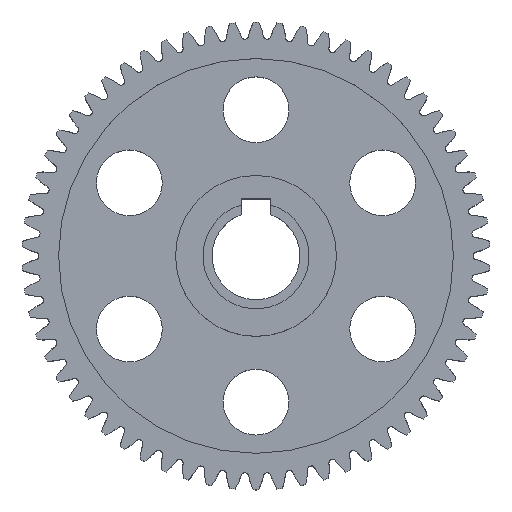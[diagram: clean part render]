
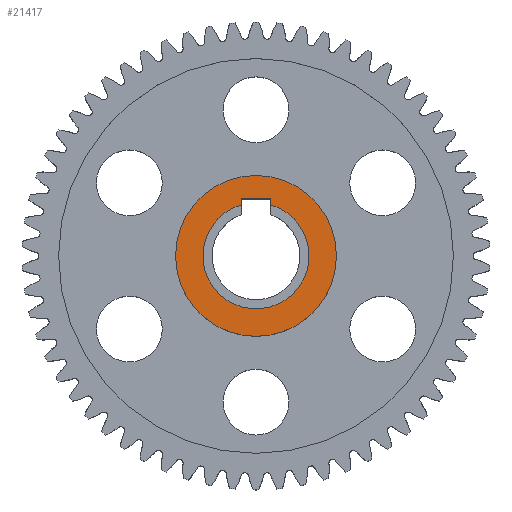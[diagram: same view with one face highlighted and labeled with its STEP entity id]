
A CAD part, top view. The second image highlights one B-rep face of the part: STEP entity #21417.
In plain terms, the highlighted planar face has unit normal (0, 0, 1).
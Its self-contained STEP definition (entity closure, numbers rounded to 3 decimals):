
#21254 = PLANE('',#21255);
#21255 = AXIS2_PLACEMENT_3D('',#21256,#21257,#21258);
#21256 = CARTESIAN_POINT('',(2.,0.,-1.));
#21257 = DIRECTION('',(1.,0.,-0.));
#21258 = DIRECTION('',(0.,0.,1.));
#21309 = PLANE('',#21310);
#21310 = AXIS2_PLACEMENT_3D('',#21311,#21312,#21313);
#21311 = CARTESIAN_POINT('',(-2.,0.,-1.));
#21312 = DIRECTION('',(1.,0.,-0.));
#21313 = DIRECTION('',(0.,0.,1.));
#21333 = PLANE('',#21334);
#21334 = AXIS2_PLACEMENT_3D('',#21335,#21336,#21337);
#21335 = CARTESIAN_POINT('',(-2.,7.8,-1.));
#21336 = DIRECTION('',(-0.,1.,0.));
#21337 = DIRECTION('',(0.,0.,1.));
#21348 = VERTEX_POINT('',#21349);
#21349 = CARTESIAN_POINT('',(2.,7.8,12.));
#21372 = VERTEX_POINT('',#21373);
#21373 = CARTESIAN_POINT('',(-2.,7.8,12.));
#21394 = EDGE_CURVE('',#21348,#21372,#21395,.T.);
#21395 = SURFACE_CURVE('',#21396,(#21400,#21406),.PCURVE_S1.);
#21396 = LINE('',#21397,#21398);
#21397 = CARTESIAN_POINT('',(-1.,7.8,12.));
#21398 = VECTOR('',#21399,1.);
#21399 = DIRECTION('',(-1.,-0.,0.));
#21400 = PCURVE('',#21333,#21401);
#21401 = DEFINITIONAL_REPRESENTATION('',(#21402),#21405);
#21402 = B_SPLINE_CURVE_WITH_KNOTS('',1,(#21403,#21404),.UNSPECIFIED.,
  .F.,.F.,(2,2),(-3.,1.),.PIECEWISE_BEZIER_KNOTS.);
#21403 = CARTESIAN_POINT('',(13.,4.));
#21404 = CARTESIAN_POINT('',(13.,0.));
#21405 = ( GEOMETRIC_REPRESENTATION_CONTEXT(2) 
PARAMETRIC_REPRESENTATION_CONTEXT() REPRESENTATION_CONTEXT('2D SPACE',''
  ) );
#21406 = PCURVE('',#21407,#21412);
#21407 = PLANE('',#21408);
#21408 = AXIS2_PLACEMENT_3D('',#21409,#21410,#21411);
#21409 = CARTESIAN_POINT('',(0.,0.,12.));
#21410 = DIRECTION('',(0.,0.,1.));
#21411 = DIRECTION('',(1.,0.,-0.));
#21412 = DEFINITIONAL_REPRESENTATION('',(#21413),#21416);
#21413 = B_SPLINE_CURVE_WITH_KNOTS('',1,(#21414,#21415),.UNSPECIFIED.,
  .F.,.F.,(2,2),(-3.,1.),.PIECEWISE_BEZIER_KNOTS.);
#21414 = CARTESIAN_POINT('',(2.,7.8));
#21415 = CARTESIAN_POINT('',(-2.,7.8));
#21416 = ( GEOMETRIC_REPRESENTATION_CONTEXT(2) 
PARAMETRIC_REPRESENTATION_CONTEXT() REPRESENTATION_CONTEXT('2D SPACE',''
  ) );
#21417 = ADVANCED_FACE('',(#21418,#21449),#21407,.T.);
#21418 = FACE_BOUND('',#21419,.T.);
#21419 = EDGE_LOOP('',(#21420));
#21420 = ORIENTED_EDGE('',*,*,#21421,.T.);
#21421 = EDGE_CURVE('',#21422,#21422,#21424,.T.);
#21422 = VERTEX_POINT('',#21423);
#21423 = CARTESIAN_POINT('',(11.,0.,12.));
#21424 = SURFACE_CURVE('',#21425,(#21430,#21437),.PCURVE_S1.);
#21425 = CIRCLE('',#21426,11.);
#21426 = AXIS2_PLACEMENT_3D('',#21427,#21428,#21429);
#21427 = CARTESIAN_POINT('',(0.,0.,12.));
#21428 = DIRECTION('',(0.,0.,1.));
#21429 = DIRECTION('',(1.,0.,-0.));
#21430 = PCURVE('',#21407,#21431);
#21431 = DEFINITIONAL_REPRESENTATION('',(#21432),#21436);
#21432 = CIRCLE('',#21433,11.);
#21433 = AXIS2_PLACEMENT_2D('',#21434,#21435);
#21434 = CARTESIAN_POINT('',(0.,0.));
#21435 = DIRECTION('',(1.,0.));
#21436 = ( GEOMETRIC_REPRESENTATION_CONTEXT(2) 
PARAMETRIC_REPRESENTATION_CONTEXT() REPRESENTATION_CONTEXT('2D SPACE',''
  ) );
#21437 = PCURVE('',#21438,#21443);
#21438 = CYLINDRICAL_SURFACE('',#21439,11.);
#21439 = AXIS2_PLACEMENT_3D('',#21440,#21441,#21442);
#21440 = CARTESIAN_POINT('',(0.,0.,7.99));
#21441 = DIRECTION('',(0.,0.,1.));
#21442 = DIRECTION('',(1.,0.,-0.));
#21443 = DEFINITIONAL_REPRESENTATION('',(#21444),#21448);
#21444 = LINE('',#21445,#21446);
#21445 = CARTESIAN_POINT('',(0.,4.01));
#21446 = VECTOR('',#21447,1.);
#21447 = DIRECTION('',(1.,0.));
#21448 = ( GEOMETRIC_REPRESENTATION_CONTEXT(2) 
PARAMETRIC_REPRESENTATION_CONTEXT() REPRESENTATION_CONTEXT('2D SPACE',''
  ) );
#21449 = FACE_BOUND('',#21450,.T.);
#21450 = EDGE_LOOP('',(#21451,#21486,#21505,#21506));
#21451 = ORIENTED_EDGE('',*,*,#21452,.T.);
#21452 = EDGE_CURVE('',#21453,#21455,#21457,.T.);
#21453 = VERTEX_POINT('',#21454);
#21454 = CARTESIAN_POINT('',(2.,6.969,12.));
#21455 = VERTEX_POINT('',#21456);
#21456 = CARTESIAN_POINT('',(-2.,6.969,12.));
#21457 = SURFACE_CURVE('',#21458,(#21463,#21474),.PCURVE_S1.);
#21458 = CIRCLE('',#21459,7.25);
#21459 = AXIS2_PLACEMENT_3D('',#21460,#21461,#21462);
#21460 = CARTESIAN_POINT('',(0.,0.,12.));
#21461 = DIRECTION('',(0.,0.,-1.));
#21462 = DIRECTION('',(0.276,0.961,0.));
#21463 = PCURVE('',#21407,#21464);
#21464 = DEFINITIONAL_REPRESENTATION('',(#21465),#21473);
#21465 = ( BOUNDED_CURVE() B_SPLINE_CURVE(2,(#21466,#21467,#21468,#21469
    ,#21470,#21471,#21472),.UNSPECIFIED.,.T.,.F.) 
B_SPLINE_CURVE_WITH_KNOTS((1,2,2,2,2,1),(-2.094,0.,
    2.094,4.189,6.283,8.378),
.UNSPECIFIED.) CURVE() GEOMETRIC_REPRESENTATION_ITEM() 
RATIONAL_B_SPLINE_CURVE((1.,0.5,1.,0.5,1.,0.5,1.)) REPRESENTATION_ITEM(
  '') );
#21466 = CARTESIAN_POINT('',(2.,6.969));
#21467 = CARTESIAN_POINT('',(14.07,3.505));
#21468 = CARTESIAN_POINT('',(5.035,-5.216));
#21469 = CARTESIAN_POINT('',(-4.,-13.937));
#21470 = CARTESIAN_POINT('',(-7.035,-1.752));
#21471 = CARTESIAN_POINT('',(-10.07,10.433));
#21472 = CARTESIAN_POINT('',(2.,6.969));
#21473 = ( GEOMETRIC_REPRESENTATION_CONTEXT(2) 
PARAMETRIC_REPRESENTATION_CONTEXT() REPRESENTATION_CONTEXT('2D SPACE',''
  ) );
#21474 = PCURVE('',#21475,#21480);
#21475 = CYLINDRICAL_SURFACE('',#21476,7.25);
#21476 = AXIS2_PLACEMENT_3D('',#21477,#21478,#21479);
#21477 = CARTESIAN_POINT('',(0.,0.,11.99));
#21478 = DIRECTION('',(0.,0.,1.));
#21479 = DIRECTION('',(1.,0.,-0.));
#21480 = DEFINITIONAL_REPRESENTATION('',(#21481),#21485);
#21481 = LINE('',#21482,#21483);
#21482 = CARTESIAN_POINT('',(7.574,0.01));
#21483 = VECTOR('',#21484,1.);
#21484 = DIRECTION('',(-1.,-0.));
#21485 = ( GEOMETRIC_REPRESENTATION_CONTEXT(2) 
PARAMETRIC_REPRESENTATION_CONTEXT() REPRESENTATION_CONTEXT('2D SPACE',''
  ) );
#21486 = ORIENTED_EDGE('',*,*,#21487,.T.);
#21487 = EDGE_CURVE('',#21455,#21372,#21488,.T.);
#21488 = SURFACE_CURVE('',#21489,(#21493,#21499),.PCURVE_S1.);
#21489 = LINE('',#21490,#21491);
#21490 = CARTESIAN_POINT('',(-2.,0.,12.));
#21491 = VECTOR('',#21492,1.);
#21492 = DIRECTION('',(-0.,1.,0.));
#21493 = PCURVE('',#21407,#21494);
#21494 = DEFINITIONAL_REPRESENTATION('',(#21495),#21498);
#21495 = B_SPLINE_CURVE_WITH_KNOTS('',1,(#21496,#21497),.UNSPECIFIED.,
  .F.,.F.,(2,2),(0.,7.8),.PIECEWISE_BEZIER_KNOTS.);
#21496 = CARTESIAN_POINT('',(-2.,0.));
#21497 = CARTESIAN_POINT('',(-2.,7.8));
#21498 = ( GEOMETRIC_REPRESENTATION_CONTEXT(2) 
PARAMETRIC_REPRESENTATION_CONTEXT() REPRESENTATION_CONTEXT('2D SPACE',''
  ) );
#21499 = PCURVE('',#21309,#21500);
#21500 = DEFINITIONAL_REPRESENTATION('',(#21501),#21504);
#21501 = B_SPLINE_CURVE_WITH_KNOTS('',1,(#21502,#21503),.UNSPECIFIED.,
  .F.,.F.,(2,2),(0.,7.8),.PIECEWISE_BEZIER_KNOTS.);
#21502 = CARTESIAN_POINT('',(13.,0.));
#21503 = CARTESIAN_POINT('',(13.,-7.8));
#21504 = ( GEOMETRIC_REPRESENTATION_CONTEXT(2) 
PARAMETRIC_REPRESENTATION_CONTEXT() REPRESENTATION_CONTEXT('2D SPACE',''
  ) );
#21505 = ORIENTED_EDGE('',*,*,#21394,.F.);
#21506 = ORIENTED_EDGE('',*,*,#21507,.F.);
#21507 = EDGE_CURVE('',#21453,#21348,#21508,.T.);
#21508 = SURFACE_CURVE('',#21509,(#21513,#21519),.PCURVE_S1.);
#21509 = LINE('',#21510,#21511);
#21510 = CARTESIAN_POINT('',(2.,0.,12.));
#21511 = VECTOR('',#21512,1.);
#21512 = DIRECTION('',(-0.,1.,0.));
#21513 = PCURVE('',#21407,#21514);
#21514 = DEFINITIONAL_REPRESENTATION('',(#21515),#21518);
#21515 = B_SPLINE_CURVE_WITH_KNOTS('',1,(#21516,#21517),.UNSPECIFIED.,
  .F.,.F.,(2,2),(0.,7.8),.PIECEWISE_BEZIER_KNOTS.);
#21516 = CARTESIAN_POINT('',(2.,0.));
#21517 = CARTESIAN_POINT('',(2.,7.8));
#21518 = ( GEOMETRIC_REPRESENTATION_CONTEXT(2) 
PARAMETRIC_REPRESENTATION_CONTEXT() REPRESENTATION_CONTEXT('2D SPACE',''
  ) );
#21519 = PCURVE('',#21254,#21520);
#21520 = DEFINITIONAL_REPRESENTATION('',(#21521),#21524);
#21521 = B_SPLINE_CURVE_WITH_KNOTS('',1,(#21522,#21523),.UNSPECIFIED.,
  .F.,.F.,(2,2),(0.,7.8),.PIECEWISE_BEZIER_KNOTS.);
#21522 = CARTESIAN_POINT('',(13.,0.));
#21523 = CARTESIAN_POINT('',(13.,-7.8));
#21524 = ( GEOMETRIC_REPRESENTATION_CONTEXT(2) 
PARAMETRIC_REPRESENTATION_CONTEXT() REPRESENTATION_CONTEXT('2D SPACE',''
  ) );
